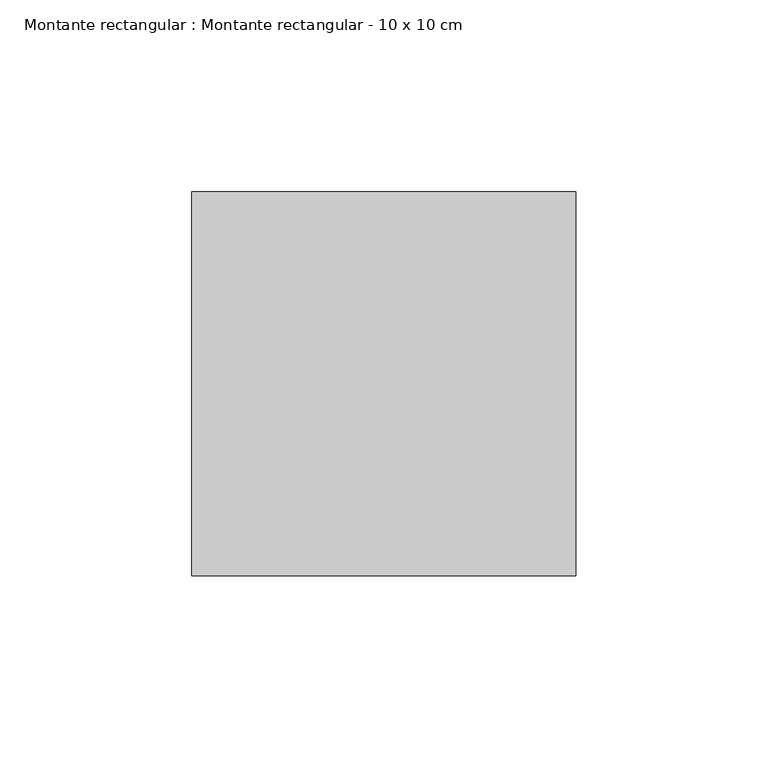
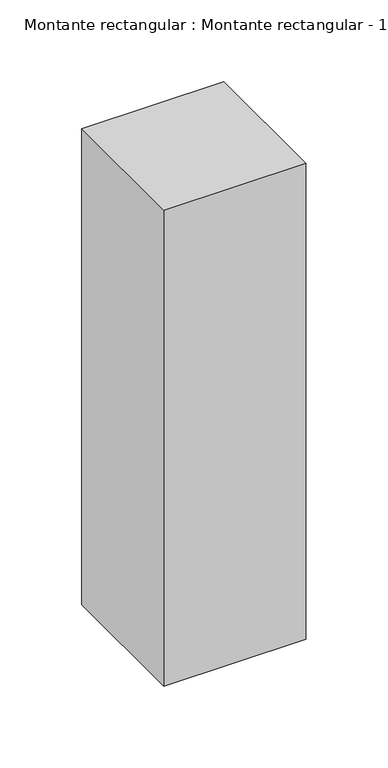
"""IFC4 building model written with IfcOpenShell, lengths in millimetres: member geometry, Montante rectangular : Montante rectangular - 10 x 10 cm."""

import ifcopenshell
import ifcopenshell.guid

model = None  # the IFC model being written
_history = None  # IfcOwnerHistory: only IFC2X3 demands one
_inside = {}  # id of a spatial element -> (the spatial element, [elements in it])
_under = {}  # id of a project, library or spatial element -> (it, [spatial elements below it])
_declared = {}  # id of a project -> (the project, [libraries it declares])
_typed = {}  # id of a type object -> (the type object, [elements of that type])
_made_of = {}  # id of a material, layer set ... -> (it, [elements and type objects made of it])


def new_model(schema):
    """Start an empty IFC model of exactly this schema.

    Asked for "IFC4X3", IfcOpenShell would pick the latest addendum, in which some entities
    have other attributes; the version numbers below select the first issue.
    IFC2X3 requires an IfcOwnerHistory on every rooted entity: one is made here for all.
    """
    global model, _history
    if schema == "IFC4X3":
        model = ifcopenshell.file(schema_version=(4, 3, 0, 0))
    else:
        model = ifcopenshell.file(schema=schema)
    _inside.clear()
    _under.clear()
    _declared.clear()
    _typed.clear()
    _made_of.clear()
    _history = None
    if model.schema == "IFC2X3":
        org = make("IfcOrganization", Name="unknown")
        user = make(
            "IfcPersonAndOrganization",
            ThePerson=make("IfcPerson", FamilyName="unknown"),
            TheOrganization=org,
        )
        app = make(
            "IfcApplication",
            ApplicationDeveloper=org,
            Version="unknown",
            ApplicationFullName="unknown",
            ApplicationIdentifier="unknown",
        )
        _history = make(
            "IfcOwnerHistory",
            OwningUser=user,
            OwningApplication=app,
            ChangeAction="ADDED",
            CreationDate=0,
        )
    return model


def make(cls, **values):
    """One entity of the class cls with the attributes given. An attribute that is None is left unset."""
    return model.create_entity(
        cls, **{name: value for name, value in values.items() if value is not None}
    )


def rooted(cls, **values):
    """An entity with a GlobalId (a new one), such as an element, a storey or a relation."""
    return make(cls, GlobalId=ifcopenshell.guid.new(), OwnerHistory=_history, **values)


def si_unit(unit_type, name, prefix=None):
    """IfcSIUnit, for example si_unit("LENGTHUNIT", "METRE", prefix="MILLI")."""
    return make("IfcSIUnit", UnitType=unit_type, Prefix=prefix, Name=name)


def assignment(units):
    """IfcUnitAssignment: the units of a project."""
    return None if units is None else make("IfcUnitAssignment", Units=units)


def point(xyz):
    """IfcCartesianPoint."""
    return None if xyz is None else make("IfcCartesianPoint", Coordinates=xyz)


def direction(xyz):
    """IfcDirection."""
    return None if xyz is None else make("IfcDirection", DirectionRatios=xyz)


def frame(location, z_axis=None, x_axis=None):
    """IfcAxis2Placement3D, a coordinate frame: its origin and axes. An axis left out is left unset."""
    return make(
        "IfcAxis2Placement3D",
        Location=point(location),
        Axis=direction(z_axis),
        RefDirection=direction(x_axis),
    )


def origin():
    """The frame at (0, 0, 0) with its axes left unset."""
    return frame((0.0, 0.0, 0.0))


def place(relative_to, where):
    """IfcLocalPlacement: puts the frame where relative to a parent placement (None: the world)."""
    return make(
        "IfcLocalPlacement", PlacementRelTo=relative_to, RelativePlacement=where
    )


def context(
    kind, dimensions, precision=None, world=None, true_north=None, identifier=None
):
    """IfcGeometricRepresentationContext, for example the 3D "Model" context."""
    return make(
        "IfcGeometricRepresentationContext",
        ContextIdentifier=identifier,
        ContextType=kind,
        CoordinateSpaceDimension=dimensions,
        Precision=precision,
        WorldCoordinateSystem=world,
        TrueNorth=true_north,
    )


def project(units=None, contexts=None):
    """IfcProject with its units and contexts."""
    return rooted(
        "IfcProject",
        Name="project",
        RepresentationContexts=contexts,
        UnitsInContext=assignment(units),
    )


def spatial(cls, under=None, at=None, **own):
    """A site, building, storey or space (cls), placed at a placement, below another one or the project."""
    s = rooted(cls, ObjectPlacement=at, **own)
    if under is not None:
        _under.setdefault(under.id(), (under, []))[1].append(s)
    return s


def polyline(points):
    """IfcPolyline through the points."""
    return make("IfcPolyline", Points=[point(p) for p in points])


def outline(outer, holes=None, kind="AREA"):
    """IfcArbitraryClosedProfileDef: a profile drawn as a closed curve; with holes, ...WithVoids."""
    if holes is None:
        return make("IfcArbitraryClosedProfileDef", ProfileType=kind, OuterCurve=outer)
    return make(
        "IfcArbitraryProfileDefWithVoids",
        ProfileType=kind,
        OuterCurve=outer,
        InnerCurves=holes,
    )


def extrude(swept, where, along, depth):
    """IfcExtrudedAreaSolid: the profile swept, set in the frame where, extruded along a direction by depth."""
    return make(
        "IfcExtrudedAreaSolid",
        SweptArea=swept,
        Position=where,
        ExtrudedDirection=direction(along),
        Depth=depth,
    )


def shape(context_of_items, identifier, shape_type, items):
    """IfcShapeRepresentation: the items that make up one representation, for example the "Body"."""
    return make(
        "IfcShapeRepresentation",
        ContextOfItems=context_of_items,
        RepresentationIdentifier=identifier,
        RepresentationType=shape_type,
        Items=items,
    )


def source(mapping_origin, context_of_items, identifier, shape_type, items):
    """IfcRepresentationMap: a shape defined once, which mapped items show again and again."""
    return make(
        "IfcRepresentationMap",
        MappingOrigin=mapping_origin,
        MappedRepresentation=shape(context_of_items, identifier, shape_type, items),
    )


def transform(
    local_origin,
    x_axis=None,
    y_axis=None,
    z_axis=None,
    scale=None,
    scale2=None,
    scale3=None,
    uniform=True,
):
    """IfcCartesianTransformationOperator3D, or its non-uniform kind. x_axis, y_axis, z_axis: its Axis1, 2, 3."""
    if uniform:
        return make(
            "IfcCartesianTransformationOperator3D",
            Axis1=direction(x_axis),
            Axis2=direction(y_axis),
            LocalOrigin=point(local_origin),
            Scale=scale,
            Axis3=direction(z_axis),
        )
    return make(
        "IfcCartesianTransformationOperator3DnonUniform",
        Axis1=direction(x_axis),
        Axis2=direction(y_axis),
        LocalOrigin=point(local_origin),
        Scale=scale,
        Axis3=direction(z_axis),
        Scale2=scale2,
        Scale3=scale3,
    )


def mapped(mapping_source, mapping_target):
    """IfcMappedItem: shows the shape of a source again, moved by a transform."""
    return make(
        "IfcMappedItem", MappingSource=mapping_source, MappingTarget=mapping_target
    )


def made_of(thing, what):
    """Note that an element or type object is made of a material, layer set ...; save() writes the relation."""
    if what is not None:
        _made_of.setdefault(what.id(), (what, []))[1].append(thing)
    return thing


def element(
    cls,
    number,
    at=None,
    inside=None,
    cuts=None,
    type_object=None,
    material=None,
    context=None,
    identifier="Body",
    shape_type=None,
    held_by="IfcProductDefinitionShape",
    body=None,
    shapes=None,
    **own,
):
    """One element of the class cls, such as IfcWall. Its Tag is "e" and its number.

    at: its placement. inside: the storey or other place that contains it. cuts: it is an
    opening in that element (IfcRelVoidsElement). A single representation is given by context,
    identifier, shape_type and body (its items); several are given by shapes. held_by: the class
    of the entity that holds the representations. save() writes the other relations.
    """
    e = rooted(cls, Tag="e%d" % number, ObjectPlacement=at, **own)
    if body is not None:
        shapes = [shape(context, identifier, shape_type, body)]
    if shapes is not None:
        e.Representation = make(held_by, Representations=shapes)
    if inside is not None:
        _inside.setdefault(inside.id(), (inside, []))[1].append(e)
    if cuts is not None:
        rooted(
            "IfcRelVoidsElement", RelatingBuildingElement=cuts, RelatedOpeningElement=e
        )
    if type_object is not None:
        _typed.setdefault(type_object.id(), (type_object, []))[1].append(e)
    return made_of(e, material)


def aggregate(whole, parts):
    """IfcRelAggregates: a whole, such as a stair, and the parts it consists of."""
    return rooted("IfcRelAggregates", RelatingObject=whole, RelatedObjects=parts)


def save(model, path):
    """Write the relations noted so far, then the file.

    IfcRelAggregates (storeys below a building ...), IfcRelContainedInSpatialStructure (elements
    in a storey), IfcRelDefinesByType, IfcRelAssociatesMaterial and IfcRelDeclares: one each for
    every whole, place, type object, material and project.
    """
    for whole, parts in _under.values():
        aggregate(whole, parts)
    for where, things in _inside.values():
        rooted(
            "IfcRelContainedInSpatialStructure",
            RelatedElements=things,
            RelatingStructure=where,
        )
    for kind, things in _typed.values():
        rooted("IfcRelDefinesByType", RelatedObjects=things, RelatingType=kind)
    for what, things in _made_of.values():
        rooted("IfcRelAssociatesMaterial", RelatedObjects=things, RelatingMaterial=what)
    for by, libraries in _declared.values():
        rooted("IfcRelDeclares", RelatingContext=by, RelatedDefinitions=libraries)
    model.write(path)


def montante_rectangular_montante_rectangular_10_x_10_cm_64f844ee(model_context):
    return source(origin(), model_context, "Body", "SweptSolid", [
        extrude(outline(polyline([(0.0, 50.0), (0.0, -50.0), (-100.0, -50.0), (-100.0, 50.0), (0.0, 50.0)])), frame((0.0, 0.0, -354.5629112), z_axis=(0.0, 0.0, 1.0), x_axis=(1.0, 0.0, 0.0)), (0.0, 0.0, 1.0), 354.5629112),
    ])


if __name__ == "__main__":
    model = new_model("IFC4")
    model_context = context("Model", 3, world=origin())
    ifc_project = project(units=[si_unit("LENGTHUNIT", "METRE", prefix="MILLI")], contexts=[model_context])
    site = spatial("IfcSite", under=ifc_project)
    building = spatial("IfcBuilding", under=site)
    placement = place(None, origin())
    montante_rectangular_montante_rectangular_10_x_10_cm_shape = montante_rectangular_montante_rectangular_10_x_10_cm_64f844ee(model_context)
    element("IfcMember", 1, ObjectType="Montante rectangular : Montante rectangular - 10 x 10 cm", at=placement, inside=building, context=model_context, shape_type="MappedRepresentation", body=[
        mapped(montante_rectangular_montante_rectangular_10_x_10_cm_shape, transform((0.0, 0.0, 0.0), x_axis=(1.0, 0.0, 0.0), y_axis=(0.0, 1.0, 0.0), z_axis=(0.0, 0.0, 1.0))),
    ])
    save(model, "model.ifc")
